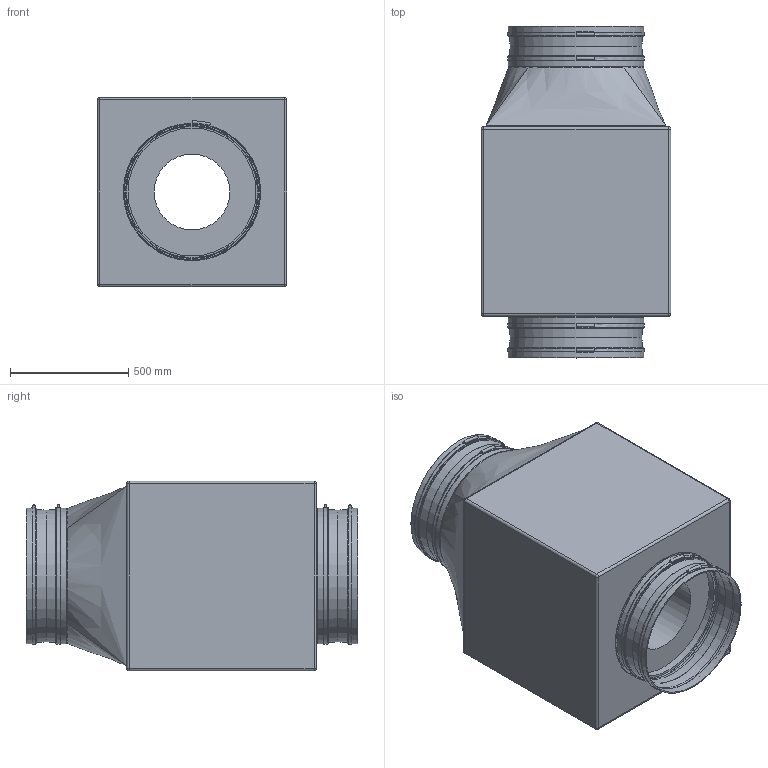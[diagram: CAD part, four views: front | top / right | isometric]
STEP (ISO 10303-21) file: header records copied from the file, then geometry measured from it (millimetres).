
FILE_DESCRIPTION(/* description */ (''),/* implementation_level */ '2;1');
FILE_NAME(/* name */ 'Z:\Output\GBD 560_4_4_Axial-05521-004.stp',/* time_stamp */ '2017-05-09T00:00:49+02:00',/* author */ ('jayeshpanchal'),/* organization */ (''),/* preprocessor_version */ 'ST-DEVELOPER v16.5',/* originating_system */ 'Autodesk Inventor 2017',/* authorisation */ '');
FILE_SCHEMA (('AUTOMOTIVE_DESIGN { 1 0 10303 214 3 1 1 }'));
Length unit declared in the file: millimetre
Products named in the file (1): GB-1
Bounding box: 800 x 1400 x 800 mm (x, y, z)
Volume: 453753810.5 mm3; surface area: 7393359 mm2
Topology: 7 solids, 7 shells, 121 faces, 228 edges, 134 vertices
Faces by surface type: cylinder 46, plane 43, bspline 12, cone 8, sphere 8, torus 4
Full cylindrical faces by diameter (mm): 320 x1, 540 x1, 560 x2, 561 x8, 570 x1, 571 x8, 577 x4, 580 x1
Entity records: 3393 total; most frequent: CARTESIAN_POINT 1036, DIRECTION 514, ORIENTED_EDGE 398, AXIS2_PLACEMENT_3D 225, EDGE_CURVE 191, EDGE_LOOP 182, VERTEX_POINT 131, FACE_OUTER_BOUND 121
